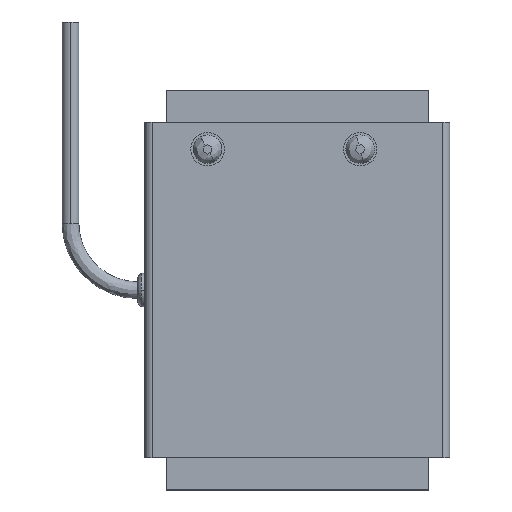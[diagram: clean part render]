
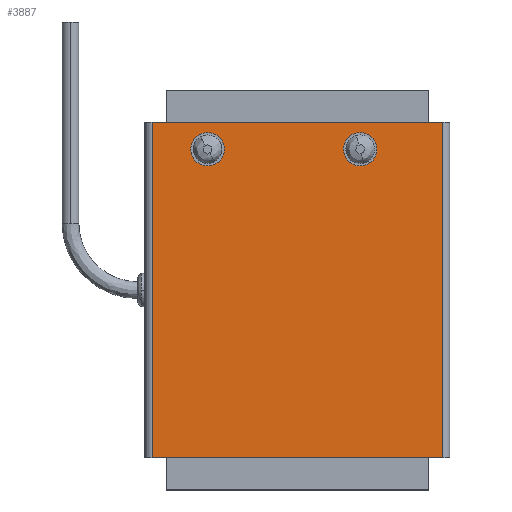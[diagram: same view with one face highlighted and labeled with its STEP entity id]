
A CAD part, top view. The second image highlights one B-rep face of the part: STEP entity #3887.
In plain terms, the highlighted planar face has unit normal (0, 0, 1).
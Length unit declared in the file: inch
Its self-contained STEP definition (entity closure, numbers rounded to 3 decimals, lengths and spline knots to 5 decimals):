
#10 = EDGE_CURVE ( 'NONE', #68, #3556, #257, .T. ) ;
#16 = ORIENTED_EDGE ( 'NONE', *, *, #2649, .F. ) ;
#48 = EDGE_LOOP ( 'NONE', ( #16, #3507 ) ) ;
#63 = ORIENTED_EDGE ( 'NONE', *, *, #3137, .F. ) ;
#68 = VERTEX_POINT ( 'NONE', #845 ) ;
#98 = EDGE_CURVE ( 'NONE', #3108, #158, #1031, .T. ) ;
#126 = ORIENTED_EDGE ( 'NONE', *, *, #98, .F. ) ;
#158 = VERTEX_POINT ( 'NONE', #1616 ) ;
#170 = EDGE_CURVE ( 'NONE', #158, #644, #1715, .T. ) ;
#195 = ORIENTED_EDGE ( 'NONE', *, *, #170, .F. ) ;
#239 = FACE_OUTER_BOUND ( 'NONE', #3872, .T. ) ;
#240 = FACE_BOUND ( 'NONE', #48, .T. ) ;
#241 = FACE_BOUND ( 'NONE', #3487, .T. ) ;
#242 = PLANE ( 'NONE',  #243 ) ;
#243 = AXIS2_PLACEMENT_3D ( 'NONE', #244, #245, #246 ) ;
#244 = CARTESIAN_POINT ( 'NONE',  ( 1.0825, 0., 0. ) ) ;
#245 = DIRECTION ( 'NONE',  ( 0., 0., -1. ) ) ;
#246 = DIRECTION ( 'NONE',  ( -1., 0., 0. ) ) ;
#257 = CIRCLE ( 'NONE', #258, 0.125 ) ;
#258 = AXIS2_PLACEMENT_3D ( 'NONE', #259, #260, #261 ) ;
#259 = CARTESIAN_POINT ( 'NONE',  ( 0.4685, 2.3, 0. ) ) ;
#260 = DIRECTION ( 'NONE',  ( 0., 0., 1. ) ) ;
#261 = DIRECTION ( 'NONE',  ( 1., 0., 0. ) ) ;
#637 = CARTESIAN_POINT ( 'NONE',  ( -0.7945, 2.3, 0. ) ) ;
#644 = VERTEX_POINT ( 'NONE', #2247 ) ;
#744 = CIRCLE ( 'NONE', #745, 0.125 ) ;
#745 = AXIS2_PLACEMENT_3D ( 'NONE', #746, #747, #748 ) ;
#746 = CARTESIAN_POINT ( 'NONE',  ( 0.4685, 2.3, 0. ) ) ;
#747 = DIRECTION ( 'NONE',  ( 0., 0., 1. ) ) ;
#748 = DIRECTION ( 'NONE',  ( 1., 0., 0. ) ) ;
#845 = CARTESIAN_POINT ( 'NONE',  ( 0.3435, 2.3, 0. ) ) ;
#850 = EDGE_CURVE ( 'NONE', #3260, #644, #2335, .T. ) ;
#999 = CARTESIAN_POINT ( 'NONE',  ( -1.0825, 2.5, 0. ) ) ;
#1031 = LINE ( 'NONE', #1032, #1033 ) ;
#1032 = CARTESIAN_POINT ( 'NONE',  ( -1.1375, 2.5, 0. ) ) ;
#1033 = VECTOR ( 'NONE', #1034, 39.37008 ) ;
#1034 = DIRECTION ( 'NONE',  ( 1., 0., 0. ) ) ;
#1121 = LINE ( 'NONE', #1122, #1123 ) ;
#1122 = CARTESIAN_POINT ( 'NONE',  ( -1.0825, 0., 0. ) ) ;
#1123 = VECTOR ( 'NONE', #1124, 39.37008 ) ;
#1124 = DIRECTION ( 'NONE',  ( 0., 1., 0. ) ) ;
#1159 = ORIENTED_EDGE ( 'NONE', *, *, #850, .T. ) ;
#1605 = EDGE_CURVE ( 'NONE', #2462, #3848, #2825, .T. ) ;
#1616 = CARTESIAN_POINT ( 'NONE',  ( 1.0825, 2.5, 0. ) ) ;
#1672 = CARTESIAN_POINT ( 'NONE',  ( -1.0825, 0., 0. ) ) ;
#1715 = LINE ( 'NONE', #1716, #1717 ) ;
#1716 = CARTESIAN_POINT ( 'NONE',  ( 1.0825, 2.5, 0. ) ) ;
#1717 = VECTOR ( 'NONE', #1718, 39.37008 ) ;
#1718 = DIRECTION ( 'NONE',  ( 0., -1., 0. ) ) ;
#2247 = CARTESIAN_POINT ( 'NONE',  ( 1.0825, 0., 0. ) ) ;
#2335 = LINE ( 'NONE', #2336, #2337 ) ;
#2336 = CARTESIAN_POINT ( 'NONE',  ( -1.1375, 0., 0. ) ) ;
#2337 = VECTOR ( 'NONE', #2340, 39.37008 ) ;
#2340 = DIRECTION ( 'NONE',  ( 1., 0., 0. ) ) ;
#2462 = VERTEX_POINT ( 'NONE', #637 ) ;
#2554 = CIRCLE ( 'NONE', #2555, 0.125 ) ;
#2555 = AXIS2_PLACEMENT_3D ( 'NONE', #2556, #2557, #2560 ) ;
#2556 = CARTESIAN_POINT ( 'NONE',  ( -0.6695, 2.3, 0. ) ) ;
#2557 = DIRECTION ( 'NONE',  ( 0., 0., 1. ) ) ;
#2560 = DIRECTION ( 'NONE',  ( 1., 0., 0. ) ) ;
#2649 = EDGE_CURVE ( 'NONE', #3556, #68, #744, .T. ) ;
#2749 = CARTESIAN_POINT ( 'NONE',  ( -0.5445, 2.3, 0. ) ) ;
#2825 = CIRCLE ( 'NONE', #2826, 0.125 ) ;
#2826 = AXIS2_PLACEMENT_3D ( 'NONE', #2827, #2828, #2829 ) ;
#2827 = CARTESIAN_POINT ( 'NONE',  ( -0.6695, 2.3, 0. ) ) ;
#2828 = DIRECTION ( 'NONE',  ( 0., 0., 1. ) ) ;
#2829 = DIRECTION ( 'NONE',  ( 1., 0., 0. ) ) ;
#2950 = CARTESIAN_POINT ( 'NONE',  ( 0.5935, 2.3, 0. ) ) ;
#3108 = VERTEX_POINT ( 'NONE', #999 ) ;
#3137 = EDGE_CURVE ( 'NONE', #3260, #3108, #1121, .T. ) ;
#3260 = VERTEX_POINT ( 'NONE', #1672 ) ;
#3329 = ORIENTED_EDGE ( 'NONE', *, *, #1605, .F. ) ;
#3395 = ORIENTED_EDGE ( 'NONE', *, *, #3476, .F. ) ;
#3476 = EDGE_CURVE ( 'NONE', #3848, #2462, #2554, .T. ) ;
#3487 = EDGE_LOOP ( 'NONE', ( #3395, #3329 ) ) ;
#3507 = ORIENTED_EDGE ( 'NONE', *, *, #10, .F. ) ;
#3556 = VERTEX_POINT ( 'NONE', #2950 ) ;
#3848 = VERTEX_POINT ( 'NONE', #2749 ) ;
#3872 = EDGE_LOOP ( 'NONE', ( #1159, #195, #126, #63 ) ) ;
#3887 = ADVANCED_FACE ( 'NONE', ( #239, #240, #241 ), #242, .F. ) ;
